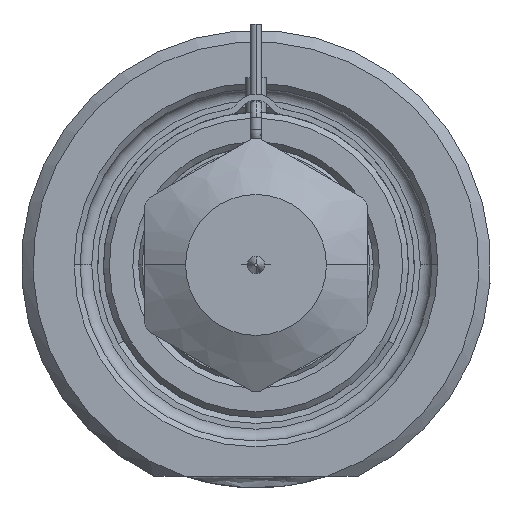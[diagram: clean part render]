
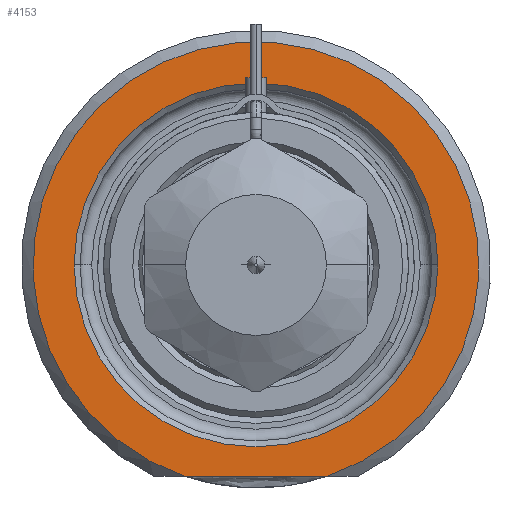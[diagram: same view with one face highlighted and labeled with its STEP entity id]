
A CAD part, front view. The second image highlights one B-rep face of the part: STEP entity #4153.
In plain terms, the highlighted planar face has unit normal (0, -1, 0).
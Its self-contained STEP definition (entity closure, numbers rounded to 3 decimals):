
#1=DIRECTION('',(1.,0.,0.));
#2=VECTOR('',#1,12.166);
#3=CARTESIAN_POINT('',(-6.083,0.,-18.));
#4=LINE('',#3,#2);
#5=CARTESIAN_POINT('',(0.,0.,0.));
#6=DIRECTION('',(0.,1.,0.));
#7=DIRECTION('',(-1.,0.,0.));
#8=AXIS2_PLACEMENT_3D('',#5,#6,#7);
#10=CARTESIAN_POINT('',(0.,0.,0.));
#11=DIRECTION('',(0.,1.,0.));
#12=DIRECTION('',(1.,0.,0.));
#13=AXIS2_PLACEMENT_3D('',#10,#11,#12);
#264=CARTESIAN_POINT('',(0.,0.,0.));
#265=DIRECTION('',(0.,-1.,0.));
#266=DIRECTION('',(0.32,0.,-0.947));
#267=AXIS2_PLACEMENT_3D('',#264,#265,#266);
#3512=CARTESIAN_POINT('',(-15.5,0.,0.));
#3513=CARTESIAN_POINT('',(15.5,0.,0.));
#3514=VERTEX_POINT('',#3512);
#3515=VERTEX_POINT('',#3513);
#3570=CARTESIAN_POINT('',(-6.083,0.,-18.));
#3571=CARTESIAN_POINT('',(6.083,0.,-18.));
#3572=VERTEX_POINT('',#3570);
#3573=VERTEX_POINT('',#3571);
#4136=CARTESIAN_POINT('',(0.,0.,0.));
#4137=DIRECTION('',(0.,-1.,0.));
#4138=DIRECTION('',(1.,0.,0.));
#4139=AXIS2_PLACEMENT_3D('',#4136,#4137,#4138);
#4140=PLANE('',#4139);
#4142=ORIENTED_EDGE('',*,*,#4141,.F.);
#4144=ORIENTED_EDGE('',*,*,#4143,.F.);
#4145=EDGE_LOOP('',(#4142,#4144));
#4146=FACE_OUTER_BOUND('',#4145,.F.);
#4148=ORIENTED_EDGE('',*,*,#4147,.F.);
#4150=ORIENTED_EDGE('',*,*,#4149,.F.);
#4151=EDGE_LOOP('',(#4148,#4150));
#4152=FACE_BOUND('',#4151,.F.);
#4153=ADVANCED_FACE('',(#4146,#4152),#4140,.T.);
#9=CIRCLE('',#8,15.5);
#14=CIRCLE('',#13,15.5);
#268=CIRCLE('',#267,19.);
#4141=EDGE_CURVE('',#3572,#3573,#4,.T.);
#4143=EDGE_CURVE('',#3573,#3572,#268,.T.);
#4147=EDGE_CURVE('',#3514,#3515,#9,.T.);
#4149=EDGE_CURVE('',#3515,#3514,#14,.T.);
